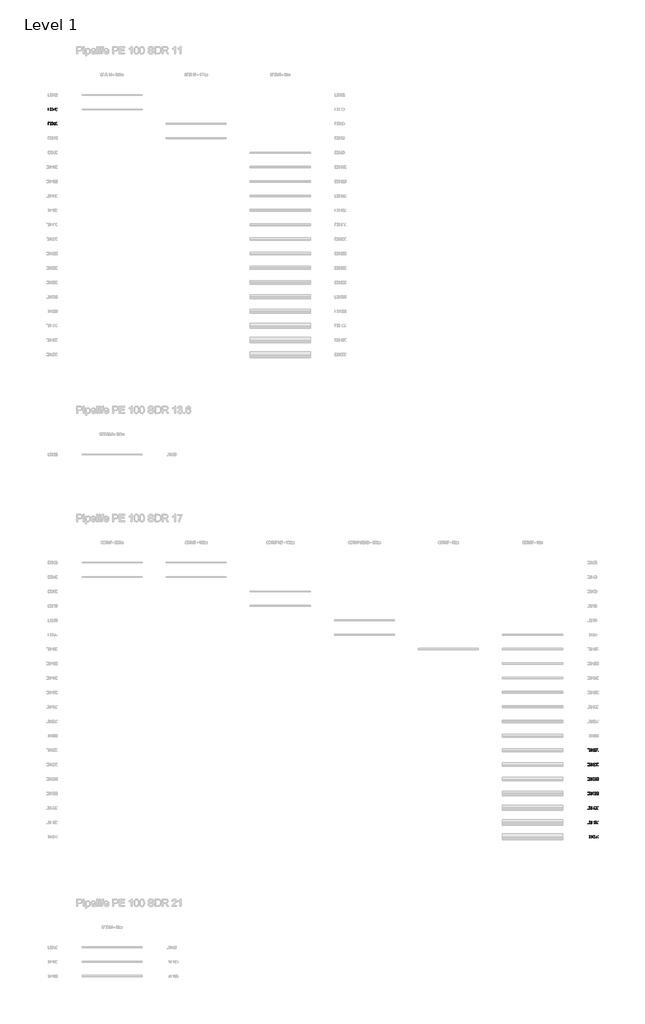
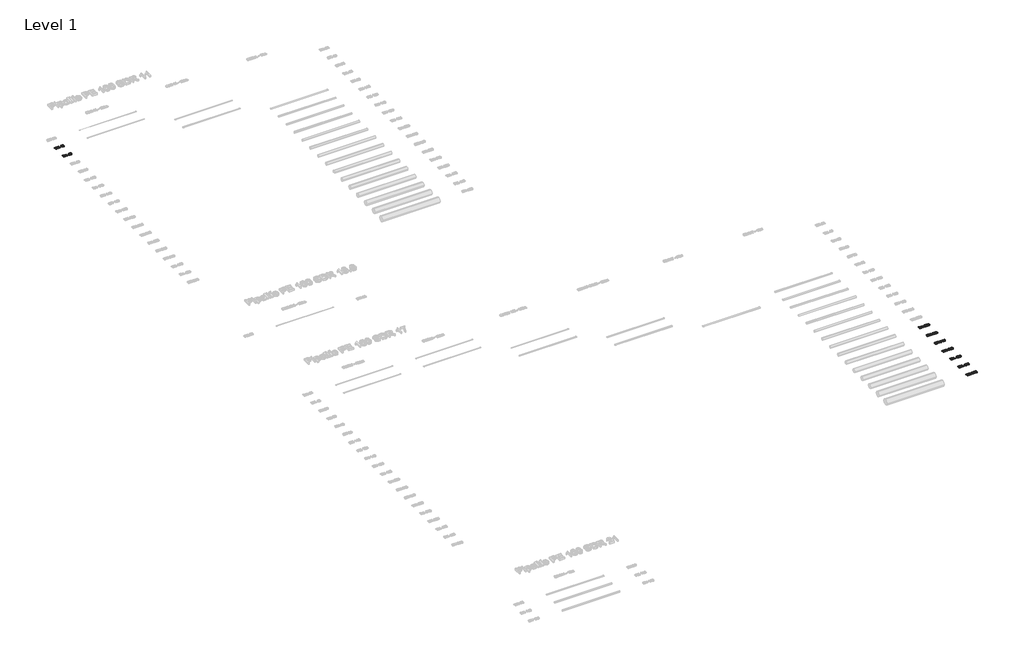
# One storey, part 19 of 26: 9 proxies.
"""IFC4 building model written with IfcOpenShell, lengths in millimetres."""

from ifc_helpers import new_model, si_unit, origin, origin_with_axes, place, context, project, spatial, polyline, outline, extrude, element, save

model = new_model("IFC4")

# Units and contexts
model_context = context("Model", 3, world=origin())
ifc_project = project(units=[si_unit("LENGTHUNIT", "METRE", prefix="MILLI")], contexts=[model_context])

# Site, building, storey
site = spatial("IfcSite", under=ifc_project)
building = spatial("IfcBuilding", under=site)
storey = spatial("IfcBuildingStorey", under=building, Name="Level 1", Elevation=0.0)

# Proxies
placement = place(None, origin())
element("IfcBuildingElementProxy", 1, Name="200mm Arial", ObjectType="200mm Arial", at=placement, inside=storey, context=model_context, shape_type="SweptSolid", body=[
    extrude(outline(polyline([(-19337.4878779, -713.949573), (-19337.4878779, -513.0369527), (-19268.17891, -513.0369527), (-19232.3226782, -515.9309577), (-19216.3075487, -521.5105013), (-19202.7940167, -530.302881), (-19188.90034, -545.606772), (-19179.0043144, -564.6385338), (-19173.0814143, -587.0302846), (-19171.1071142, -612.4141423), (-19176.4536659, -652.9547382), (-19190.187927, -682.2136195), (-19208.5329759, -700.436041), (-19232.5434074, -710.5160077), (-19264.8434466, -713.949573), (-19337.4878779, -713.949573)]), holes=[polyline([(-19312.3738004, -688.8354954), (-19267.9336553, -688.8354954), (-19235.6090907, -685.2057264), (-19216.9697363, -674.9540815), (-19208.2448016, -664.0831685), (-19201.6903707, -650.0116822), (-19197.5884865, -632.6783089), (-19196.2211917, -612.0217348), (-19198.9005989, -584.6513144), (-19206.9388205, -564.4423301), (-19218.8152776, -550.5609162), (-19233.0093913, -542.1732067), (-19268.6203684, -538.1510302), (-19312.3738004, -538.1510302), (-19312.3738004, -688.8354954)])]), origin_with_axes(), (0.0, 0.0, 1.0), 50.0),
    extrude(outline(polyline([(-19136.5752576, -713.949573), (-19136.5752576, -513.0369527), (-19109.6953465, -513.0369527), (-19004.7263505, -672.2072292), (-19004.7263505, -513.0369527), (-18979.612273, -513.0369527), (-18979.612273, -713.949573), (-19006.4921841, -713.949573), (-19111.4611801, -554.7302454), (-19111.4611801, -713.949573), (-19136.5752576, -713.949573)])), origin_with_axes(), (0.0, 0.0, 1.0), 50.0),
    extrude(outline(polyline([(-18784.9781721, -713.949573), (-18784.9781721, -666.8606776), (-18876.0167031, -666.8606776), (-18876.0167031, -641.7466), (-18778.6996527, -516.1762123), (-18759.8640945, -516.1762123), (-18759.8640945, -641.7466), (-18734.750017, -641.7466), (-18734.750017, -666.8606776), (-18759.8640945, -666.8606776), (-18759.8640945, -713.949573), (-18784.9781721, -713.949573)]), holes=[polyline([(-18784.9781721, -641.7466), (-18784.9781721, -564.1480245), (-18845.1146156, -641.7466), (-18784.9781721, -641.7466)])]), origin_with_axes(), (0.0, 0.0, 1.0), 50.0),
    extrude(outline(polyline([(-18712.7751992, -615.1119436), (-18710.9296578, -582.9529258), (-18705.3930338, -557.3054194), (-18696.2205094, -537.7770168), (-18683.4672669, -523.9753106), (-18667.0413358, -515.7715422), (-18646.8507456, -513.0369527), (-18631.3751764, -514.6556334), (-18617.5182879, -519.5116758), (-18605.930005, -527.4150073), (-18597.2602527, -538.1755557), (-18585.4880288, -567.9004209), (-18580.9262921, -615.1119436), (-18582.7534393, -647.0870203), (-18588.2348811, -672.6732131), (-18597.3522232, -692.2200098), (-18610.0870716, -706.0768983), (-18626.5497909, -714.335849), (-18646.8507456, -717.0888326), (-18672.9458418, -712.3063667), (-18692.7624186, -697.9589689), (-18701.5180101, -682.8298218), (-18707.772004, -663.9789353), (-18712.7751992, -615.1119436)]), holes=[polyline([(-18687.6611216, -615.0628927), (-18684.7180657, -654.5672876), (-18675.8888978, -677.4311536), (-18662.7432478, -688.3388547), (-18646.8507456, -691.9747551), (-18630.9582434, -688.326592), (-18617.8125935, -677.3821026), (-18608.9834256, -654.5059739), (-18606.0403696, -615.0628927), (-18608.8853237, -576.4475459), (-18617.420186, -553.4058703), (-18630.5413105, -541.9647402), (-18647.1450512, -538.1510302), (-18662.8658751, -541.5110191), (-18675.4964903, -551.5909857), (-18684.6199638, -576.0674012), (-18687.6611216, -615.0628927)])]), origin_with_axes(), (0.0, 0.0, 1.0), 50.0),
])
element("IfcBuildingElementProxy", 2, Name="200mm Arial", ObjectType="200mm Arial", at=placement, inside=storey, context=model_context, shape_type="SweptSolid", body=[
    extrude(outline(polyline([(-19337.4878779, -1913.949573), (-19337.4878779, -1713.0369527), (-19268.17891, -1713.0369527), (-19232.3226782, -1715.9309577), (-19216.3075487, -1721.5105013), (-19202.7940167, -1730.302881), (-19188.90034, -1745.606772), (-19179.0043144, -1764.6385338), (-19173.0814143, -1787.0302846), (-19171.1071142, -1812.4141423), (-19176.4536659, -1852.9547382), (-19190.187927, -1882.2136195), (-19208.5329759, -1900.436041), (-19232.5434074, -1910.5160077), (-19264.8434466, -1913.949573), (-19337.4878779, -1913.949573)]), holes=[polyline([(-19312.3738004, -1888.8354954), (-19267.9336553, -1888.8354954), (-19235.6090907, -1885.2057264), (-19216.9697363, -1874.9540815), (-19208.2448016, -1864.0831685), (-19201.6903707, -1850.0116822), (-19197.5884865, -1832.6783089), (-19196.2211917, -1812.0217348), (-19198.9005989, -1784.6513144), (-19206.9388205, -1764.4423301), (-19218.8152776, -1750.5609162), (-19233.0093913, -1742.1732067), (-19268.6203684, -1738.1510302), (-19312.3738004, -1738.1510302), (-19312.3738004, -1888.8354954)])]), origin_with_axes(), (0.0, 0.0, 1.0), 50.0),
    extrude(outline(polyline([(-19136.5752576, -1913.949573), (-19136.5752576, -1713.0369527), (-19109.6953465, -1713.0369527), (-19004.7263505, -1872.2072292), (-19004.7263505, -1713.0369527), (-18979.612273, -1713.0369527), (-18979.612273, -1913.949573), (-19006.4921841, -1913.949573), (-19111.4611801, -1754.7302454), (-19111.4611801, -1913.949573), (-19136.5752576, -1913.949573)])), origin_with_axes(), (0.0, 0.0, 1.0), 50.0),
    extrude(outline(polyline([(-18866.5989241, -1860.5821582), (-18841.4848465, -1857.4428985), (-18836.8740589, -1872.5199289), (-18828.8297059, -1883.3172655), (-18817.3885758, -1889.8103827), (-18802.5874569, -1891.9747551), (-18784.5857646, -1888.9642541), (-18771.0967581, -1879.9327511), (-18762.6722604, -1865.9225785), (-18759.8640945, -1847.9760685), (-18762.4944508, -1831.0780222), (-18770.3855196, -1818.1531014), (-18783.5986146, -1809.9493329), (-18802.1950494, -1807.2147434), (-18824.2434437, -1811.5802764), (-18838.3455868, -1822.9110419), (-18863.4596644, -1819.7717822), (-18841.4848465, -1716.1762123), (-18744.1677961, -1716.1762123), (-18744.1677961, -1741.2902899), (-18821.1777604, -1741.2902899), (-18831.9199147, -1796.619742), (-18813.979536, -1785.7304349), (-18795.1807661, -1782.1006659), (-18771.7160261, -1786.601089), (-18752.2366745, -1800.1023582), (-18739.1216814, -1820.6792244), (-18734.750017, -1846.4064386), (-18738.6863543, -1871.5205162), (-18750.4953664, -1893.0048247), (-18760.9309523, -1903.5415782), (-18773.1078464, -1911.0678307), (-18787.0260485, -1915.5835821), (-18802.6855588, -1917.0888326), (-18827.3520466, -1913.2199403), (-18847.0030765, -1901.6132634), (-18860.4736888, -1883.6177025), (-18866.5989241, -1860.5821582)])), origin_with_axes(), (0.0, 0.0, 1.0), 50.0),
    extrude(outline(polyline([(-18712.7751992, -1815.1119436), (-18710.9296578, -1782.9529258), (-18705.3930338, -1757.3054194), (-18696.2205094, -1737.7770168), (-18683.4672669, -1723.9753106), (-18667.0413358, -1715.7715422), (-18646.8507456, -1713.0369527), (-18631.3751764, -1714.6556334), (-18617.5182879, -1719.5116758), (-18605.930005, -1727.4150073), (-18597.2602527, -1738.1755557), (-18585.4880288, -1767.9004209), (-18580.9262921, -1815.1119436), (-18582.7534393, -1847.0870203), (-18588.2348811, -1872.6732131), (-18597.3522232, -1892.2200098), (-18610.0870716, -1906.0768983), (-18626.5497909, -1914.335849), (-18646.8507456, -1917.0888326), (-18672.9458418, -1912.3063667), (-18692.7624186, -1897.9589689), (-18701.5180101, -1882.8298218), (-18707.772004, -1863.9789353), (-18712.7751992, -1815.1119436)]), holes=[polyline([(-18687.6611216, -1815.0628927), (-18684.7180657, -1854.5672876), (-18675.8888978, -1877.4311536), (-18662.7432478, -1888.3388547), (-18646.8507456, -1891.9747551), (-18630.9582434, -1888.326592), (-18617.8125935, -1877.3821026), (-18608.9834256, -1854.5059739), (-18606.0403696, -1815.0628927), (-18608.8853237, -1776.4475459), (-18617.420186, -1753.4058703), (-18630.5413105, -1741.9647402), (-18647.1450512, -1738.1510302), (-18662.8658751, -1741.5110191), (-18675.4964903, -1751.5909857), (-18684.6199638, -1776.0674012), (-18687.6611216, -1815.0628927)])]), origin_with_axes(), (0.0, 0.0, 1.0), 50.0),
])
element("IfcBuildingElementProxy", 3, Name="200mm Arial", ObjectType="200mm Arial", at=placement, inside=storey, context=model_context, shape_type="SweptSolid", body=[
    extrude(outline(polyline([(25539.3076926, -54013.949573), (25539.3076926, -53813.0369527), (25608.6166605, -53813.0369527), (25644.4728923, -53815.9309577), (25660.4880218, -53821.5105013), (25674.0015538, -53830.302881), (25687.8952305, -53845.606772), (25697.7912562, -53864.6385338), (25703.7141563, -53887.0302846), (25705.6884563, -53912.4141423), (25700.3419047, -53952.9547382), (25686.6076435, -53982.2136195), (25668.2625947, -54000.436041), (25644.2521631, -54010.5160077), (25611.9521239, -54013.949573), (25539.3076926, -54013.949573)]), holes=[polyline([(25564.4217702, -53988.8354954), (25608.8619152, -53988.8354954), (25641.1864798, -53985.2057264), (25659.8258342, -53974.9540815), (25668.5507689, -53964.0831685), (25675.1051998, -53950.0116822), (25679.207084, -53932.6783089), (25680.5743788, -53912.0217348), (25677.8949716, -53884.6513144), (25669.85675, -53864.4423301), (25657.9802929, -53850.5609162), (25643.7861793, -53842.1732067), (25608.1752021, -53838.1510302), (25564.4217702, -53838.1510302), (25564.4217702, -53988.8354954)])]), origin_with_axes(), (0.0, 0.0, 1.0), 50.0),
    extrude(outline(polyline([(25740.2203129, -54013.949573), (25740.2203129, -53813.0369527), (25767.100224, -53813.0369527), (25872.06922, -53972.2072292), (25872.06922, -53813.0369527), (25897.1832975, -53813.0369527), (25897.1832975, -54013.949573), (25870.3033864, -54013.949573), (25765.3343905, -53854.7302454), (25765.3343905, -54013.949573), (25740.2203129, -54013.949573)])), origin_with_axes(), (0.0, 0.0, 1.0), 50.0),
    extrude(outline(polyline([(26138.9062938, -53988.8354954), (26138.9062938, -54013.949573), (26007.0573868, -54013.949573), (26009.7551881, -53996.6345937), (26025.0100281, -53969.9754118), (26056.451676, -53940.8636832), (26099.8127005, -53899.0232377), (26107.9428926, -53884.6022634), (26110.6529566, -53870.5736967), (26108.0961767, -53857.9982638), (26100.4258371, -53847.5442838), (26088.6352192, -53840.4993436), (26073.7176043, -53838.1510302), (26058.0519627, -53840.4441613), (26045.8812, -53847.3235546), (26038.0269194, -53858.2496499), (26035.310724, -53872.6828868), (26010.1966465, -53869.5436271), (26016.2850935, -53845.2511527), (26029.4491375, -53827.5069778), (26049.0020656, -53816.6544589), (26074.2571645, -53813.0369527), (26099.6962045, -53817.0591291), (26119.2123444, -53829.1256586), (26131.6283617, -53847.1518763), (26135.7670341, -53869.0531178), (26131.3033993, -53892.8673456), (26116.4654921, -53917.4909138), (26080.486633, -53951.9001431), (26051.5956336, -53976.0577275), (26040.2648682, -53988.8354954), (26138.9062938, -53988.8354954)])), origin_with_axes(), (0.0, 0.0, 1.0), 50.0),
    extrude(outline(polyline([(26164.0203714, -53960.5821582), (26189.1344489, -53957.4428985), (26193.7452366, -53972.5199289), (26201.7895895, -53983.3172655), (26213.2307196, -53989.8103827), (26228.0318385, -53991.9747551), (26246.0335308, -53988.9642541), (26259.5225373, -53979.9327511), (26267.947035, -53965.9225785), (26270.7552009, -53947.9760685), (26268.1248446, -53931.0780222), (26260.2337758, -53918.1531014), (26247.0206809, -53909.9493329), (26228.424246, -53907.2147434), (26206.3758518, -53911.5802764), (26192.2737086, -53922.9110419), (26167.1596311, -53919.7717822), (26189.1344489, -53816.1762123), (26286.4514994, -53816.1762123), (26286.4514994, -53841.2902899), (26209.441535, -53841.2902899), (26198.6993808, -53896.619742), (26216.6397594, -53885.7304349), (26235.4385294, -53882.1006659), (26258.9032693, -53886.601089), (26278.3826209, -53900.1023582), (26291.4976141, -53920.6792244), (26295.8692784, -53946.4064386), (26291.9329411, -53971.5205162), (26280.123929, -53993.0048247), (26269.6883431, -54003.5415782), (26257.5114491, -54011.0678307), (26243.5932469, -54015.5835821), (26227.9337367, -54017.0888326), (26203.2672489, -54013.2199403), (26183.616219, -54001.6132634), (26170.1456066, -53983.6177025), (26164.0203714, -53960.5821582)])), origin_with_axes(), (0.0, 0.0, 1.0), 50.0),
    extrude(outline(polyline([(26317.8440963, -53915.1119436), (26319.6896376, -53882.9529258), (26325.2262617, -53857.3054194), (26334.3987861, -53837.7770168), (26347.1520286, -53823.9753106), (26363.5779597, -53815.7715422), (26383.7685498, -53813.0369527), (26399.2441191, -53814.6556334), (26413.1010076, -53819.5116758), (26424.6892904, -53827.4150073), (26433.3590428, -53838.1755557), (26445.1312666, -53867.9004209), (26449.6930034, -53915.1119436), (26447.8658561, -53947.0870203), (26442.3844144, -53972.6732131), (26433.2670723, -53992.2200098), (26420.5322239, -54006.0768983), (26404.0695046, -54014.335849), (26383.7685498, -54017.0888326), (26357.6734536, -54012.3063667), (26337.8568768, -53997.9589689), (26329.1012853, -53982.8298218), (26322.8472914, -53963.9789353), (26317.8440963, -53915.1119436)]), holes=[polyline([(26342.9581738, -53915.0628927), (26345.9012298, -53954.5672876), (26354.7303977, -53977.4311536), (26367.8760476, -53988.3388547), (26383.7685498, -53991.9747551), (26399.661052, -53988.326592), (26412.806702, -53977.3821026), (26421.6358699, -53954.5059739), (26424.5789258, -53915.0628927), (26421.7339717, -53876.4475459), (26413.1991094, -53853.4058703), (26400.0779849, -53841.9647402), (26383.4742442, -53838.1510302), (26367.7534203, -53841.5110191), (26355.1228051, -53851.5909857), (26345.9993317, -53876.0674012), (26342.9581738, -53915.0628927)])]), origin_with_axes(), (0.0, 0.0, 1.0), 50.0),
])
element("IfcBuildingElementProxy", 4, Name="200mm Arial", ObjectType="200mm Arial", at=placement, inside=storey, context=model_context, shape_type="SweptSolid", body=[
    extrude(outline(polyline([(25539.3076926, -56413.949573), (25539.3076926, -56213.0369527), (25608.6166605, -56213.0369527), (25644.4728923, -56215.9309577), (25660.4880218, -56221.5105013), (25674.0015538, -56230.302881), (25687.8952305, -56245.606772), (25697.7912562, -56264.6385338), (25703.7141563, -56287.0302846), (25705.6884563, -56312.4141423), (25700.3419047, -56352.9547382), (25686.6076435, -56382.2136195), (25668.2625947, -56400.436041), (25644.2521631, -56410.5160077), (25611.9521239, -56413.949573), (25539.3076926, -56413.949573)]), holes=[polyline([(25564.4217702, -56388.8354954), (25608.8619152, -56388.8354954), (25641.1864798, -56385.2057264), (25659.8258342, -56374.9540815), (25668.5507689, -56364.0831685), (25675.1051998, -56350.0116822), (25679.207084, -56332.6783089), (25680.5743788, -56312.0217348), (25677.8949716, -56284.6513144), (25669.85675, -56264.4423301), (25657.9802929, -56250.5609162), (25643.7861793, -56242.1732067), (25608.1752021, -56238.1510302), (25564.4217702, -56238.1510302), (25564.4217702, -56388.8354954)])]), origin_with_axes(), (0.0, 0.0, 1.0), 50.0),
    extrude(outline(polyline([(25740.2203129, -56413.949573), (25740.2203129, -56213.0369527), (25767.100224, -56213.0369527), (25872.06922, -56372.2072292), (25872.06922, -56213.0369527), (25897.1832975, -56213.0369527), (25897.1832975, -56413.949573), (25870.3033864, -56413.949573), (25765.3343905, -56254.7302454), (25765.3343905, -56413.949573), (25740.2203129, -56413.949573)])), origin_with_axes(), (0.0, 0.0, 1.0), 50.0),
    extrude(outline(polyline([(26010.1966465, -56360.5821582), (26035.310724, -56357.4428985), (26040.9331872, -56373.2250361), (26049.1676125, -56383.8813512), (26060.4186702, -56389.9514041), (26075.0910304, -56391.9747551), (26092.3079078, -56389.1911147), (26105.6007105, -56380.8401934), (26114.0987846, -56368.3812565), (26116.931476, -56353.2735692), (26114.1233101, -56338.9323028), (26105.6988124, -56327.3011004), (26092.9455699, -56319.5939726), (26077.1511696, -56317.02493), (26059.5418847, -56319.7717822), (26062.3377879, -56294.6577047), (26066.3599644, -56294.9520102), (26081.406338, -56293.1493885), (26094.8585563, -56287.7415231), (26104.3499118, -56278.5935242), (26107.5136969, -56265.5705016), (26105.2205658, -56254.7241141), (26098.3411725, -56245.925603), (26087.8442729, -56240.0946734), (26074.6986229, -56238.1510302), (26061.5284475, -56240.1130675), (26050.7617678, -56245.9991794), (26042.9013558, -56255.809366), (26038.4499837, -56269.5436271), (26013.3359061, -56266.4043674), (26020.7303343, -56243.8532011), (26033.8882469, -56227.0164685), (26051.8899392, -56216.5318316), (26073.8157062, -56213.0369527), (26089.6039751, -56214.7598667), (26104.1046571, -56219.9286087), (26116.3306021, -56228.0833263), (26125.29466, -56238.7641669), (26130.7944958, -56251.0698196), (26132.6277745, -56264.0989736), (26130.8864663, -56276.2390794), (26125.662542, -56287.2510138), (26117.0295779, -56296.6320047), (26105.0611503, -56303.87928), (26120.7819742, -56310.2313758), (26132.4315707, -56321.0471064), (26139.6420578, -56335.7378608), (26142.0455535, -56353.7150276), (26137.2385621, -56378.191443), (26122.8175879, -56398.645682), (26101.0512365, -56412.478045), (26074.2081136, -56417.0888326), (26049.9279019, -56413.1524953), (26030.1603761, -56401.3434833), (26016.4138522, -56383.2804773), (26010.1966465, -56360.5821582)])), origin_with_axes(), (0.0, 0.0, 1.0), 50.0),
    extrude(outline(polyline([(26258.1981621, -56413.949573), (26233.0840846, -56413.949573), (26233.0840846, -56257.3789958), (26209.2943822, -56274.3260931), (26182.8559295, -56287.0057592), (26182.8559295, -56263.2651077), (26219.6686545, -56239.769711), (26233.1392669, -56226.1948653), (26242.0113543, -56213.0369527), (26258.1981621, -56213.0369527), (26258.1981621, -56413.949573)])), origin_with_axes(), (0.0, 0.0, 1.0), 50.0),
    extrude(outline(polyline([(26317.8440963, -56360.5821582), (26342.9581738, -56357.4428985), (26347.5689615, -56372.5199289), (26355.6133145, -56383.3172655), (26367.0544445, -56389.8103827), (26381.8555634, -56391.9747551), (26399.8572557, -56388.9642541), (26413.3462622, -56379.9327511), (26421.7707599, -56365.9225785), (26424.5789258, -56347.9760685), (26421.9485696, -56331.0780222), (26414.0575008, -56318.1531014), (26400.8444058, -56309.9493329), (26382.2479709, -56307.2147434), (26360.1995767, -56311.5802764), (26346.0974335, -56322.9110419), (26320.983356, -56319.7717822), (26342.9581738, -56216.1762123), (26440.2752243, -56216.1762123), (26440.2752243, -56241.2902899), (26363.26526, -56241.2902899), (26352.5231057, -56296.619742), (26370.4634843, -56285.7304349), (26389.2622543, -56282.1006659), (26412.7269942, -56286.601089), (26432.2063459, -56300.1023582), (26445.321339, -56320.6792244), (26449.6930034, -56346.4064386), (26445.756666, -56371.5205162), (26433.947654, -56393.0048247), (26423.512068, -56403.5415782), (26411.335174, -56411.0678307), (26397.4169718, -56415.5835821), (26381.7574616, -56417.0888326), (26357.0909738, -56413.2199403), (26337.4399439, -56401.6132634), (26323.9693315, -56383.6177025), (26317.8440963, -56360.5821582)])), origin_with_axes(), (0.0, 0.0, 1.0), 50.0),
])
element("IfcBuildingElementProxy", 5, Name="200mm Arial", ObjectType="200mm Arial", at=placement, inside=storey, context=model_context, shape_type="SweptSolid", body=[
    extrude(outline(polyline([(25539.3076926, -58813.949573), (25539.3076926, -58613.0369527), (25608.6166605, -58613.0369527), (25644.4728923, -58615.9309577), (25660.4880218, -58621.5105013), (25674.0015538, -58630.302881), (25687.8952305, -58645.606772), (25697.7912562, -58664.6385338), (25703.7141563, -58687.0302846), (25705.6884563, -58712.4141423), (25700.3419047, -58752.9547382), (25686.6076435, -58782.2136195), (25668.2625947, -58800.436041), (25644.2521631, -58810.5160077), (25611.9521239, -58813.949573), (25539.3076926, -58813.949573)]), holes=[polyline([(25564.4217702, -58788.8354954), (25608.8619152, -58788.8354954), (25641.1864798, -58785.2057264), (25659.8258342, -58774.9540815), (25668.5507689, -58764.0831685), (25675.1051998, -58750.0116822), (25679.207084, -58732.6783089), (25680.5743788, -58712.0217348), (25677.8949716, -58684.6513144), (25669.85675, -58664.4423301), (25657.9802929, -58650.5609162), (25643.7861793, -58642.1732067), (25608.1752021, -58638.1510302), (25564.4217702, -58638.1510302), (25564.4217702, -58788.8354954)])]), origin_with_axes(), (0.0, 0.0, 1.0), 50.0),
    extrude(outline(polyline([(25740.2203129, -58813.949573), (25740.2203129, -58613.0369527), (25767.100224, -58613.0369527), (25872.06922, -58772.2072292), (25872.06922, -58613.0369527), (25897.1832975, -58613.0369527), (25897.1832975, -58813.949573), (25870.3033864, -58813.949573), (25765.3343905, -58654.7302454), (25765.3343905, -58813.949573), (25740.2203129, -58813.949573)])), origin_with_axes(), (0.0, 0.0, 1.0), 50.0),
    extrude(outline(polyline([(26091.8173985, -58813.949573), (26091.8173985, -58766.8606776), (26000.7788674, -58766.8606776), (26000.7788674, -58741.7466), (26098.0959178, -58616.1762123), (26116.931476, -58616.1762123), (26116.931476, -58741.7466), (26142.0455535, -58741.7466), (26142.0455535, -58766.8606776), (26116.931476, -58766.8606776), (26116.931476, -58813.949573), (26091.8173985, -58813.949573)]), holes=[polyline([(26091.8173985, -58741.7466), (26091.8173985, -58664.1480245), (26031.680955, -58741.7466), (26091.8173985, -58741.7466)])]), origin_with_axes(), (0.0, 0.0, 1.0), 50.0),
    extrude(outline(polyline([(26164.0203714, -58715.1119436), (26165.8659127, -58682.9529258), (26171.4025367, -58657.3054194), (26180.5750612, -58637.7770168), (26193.3283037, -58623.9753106), (26209.7542347, -58615.7715422), (26229.9448249, -58613.0369527), (26245.4203942, -58614.6556334), (26259.2772827, -58619.5116758), (26270.8655655, -58627.4150073), (26279.5353179, -58638.1755557), (26291.3075417, -58667.9004209), (26295.8692784, -58715.1119436), (26294.0421312, -58747.0870203), (26288.5606895, -58772.6732131), (26279.4433474, -58792.2200098), (26266.708499, -58806.0768983), (26250.2457797, -58814.335849), (26229.9448249, -58817.0888326), (26203.8497287, -58812.3063667), (26184.0331519, -58797.9589689), (26175.2775604, -58782.8298218), (26169.0235665, -58763.9789353), (26164.0203714, -58715.1119436)]), holes=[polyline([(26189.1344489, -58715.0628927), (26192.0775049, -58754.5672876), (26200.9066728, -58777.4311536), (26214.0523227, -58788.3388547), (26229.9448249, -58791.9747551), (26245.8373271, -58788.326592), (26258.9829771, -58777.3821026), (26267.8121449, -58754.5059739), (26270.7552009, -58715.0628927), (26267.9102468, -58676.4475459), (26259.3753845, -58653.4058703), (26246.25426, -58641.9647402), (26229.6505193, -58638.1510302), (26213.9296954, -58641.5110191), (26201.2990802, -58651.5909857), (26192.1756067, -58676.0674012), (26189.1344489, -58715.0628927)])]), origin_with_axes(), (0.0, 0.0, 1.0), 50.0),
    extrude(outline(polyline([(26317.8440963, -58715.1119436), (26319.6896376, -58682.9529258), (26325.2262617, -58657.3054194), (26334.3987861, -58637.7770168), (26347.1520286, -58623.9753106), (26363.5779597, -58615.7715422), (26383.7685498, -58613.0369527), (26399.2441191, -58614.6556334), (26413.1010076, -58619.5116758), (26424.6892904, -58627.4150073), (26433.3590428, -58638.1755557), (26445.1312666, -58667.9004209), (26449.6930034, -58715.1119436), (26447.8658561, -58747.0870203), (26442.3844144, -58772.6732131), (26433.2670723, -58792.2200098), (26420.5322239, -58806.0768983), (26404.0695046, -58814.335849), (26383.7685498, -58817.0888326), (26357.6734536, -58812.3063667), (26337.8568768, -58797.9589689), (26329.1012853, -58782.8298218), (26322.8472914, -58763.9789353), (26317.8440963, -58715.1119436)]), holes=[polyline([(26342.9581738, -58715.0628927), (26345.9012298, -58754.5672876), (26354.7303977, -58777.4311536), (26367.8760476, -58788.3388547), (26383.7685498, -58791.9747551), (26399.661052, -58788.326592), (26412.806702, -58777.3821026), (26421.6358699, -58754.5059739), (26424.5789258, -58715.0628927), (26421.7339717, -58676.4475459), (26413.1991094, -58653.4058703), (26400.0779849, -58641.9647402), (26383.4742442, -58638.1510302), (26367.7534203, -58641.5110191), (26355.1228051, -58651.5909857), (26345.9993317, -58676.0674012), (26342.9581738, -58715.0628927)])]), origin_with_axes(), (0.0, 0.0, 1.0), 50.0),
])
element("IfcBuildingElementProxy", 6, Name="200mm Arial", ObjectType="200mm Arial", at=placement, inside=storey, context=model_context, shape_type="SweptSolid", body=[
    extrude(outline(polyline([(25539.3076926, -55213.949573), (25539.3076926, -55013.0369527), (25608.6166605, -55013.0369527), (25644.4728923, -55015.9309577), (25660.4880218, -55021.5105013), (25674.0015538, -55030.302881), (25687.8952305, -55045.606772), (25697.7912562, -55064.6385338), (25703.7141563, -55087.0302846), (25705.6884563, -55112.4141423), (25700.3419047, -55152.9547382), (25686.6076435, -55182.2136195), (25668.2625947, -55200.436041), (25644.2521631, -55210.5160077), (25611.9521239, -55213.949573), (25539.3076926, -55213.949573)]), holes=[polyline([(25564.4217702, -55188.8354954), (25608.8619152, -55188.8354954), (25641.1864798, -55185.2057264), (25659.8258342, -55174.9540815), (25668.5507689, -55164.0831685), (25675.1051998, -55150.0116822), (25679.207084, -55132.6783089), (25680.5743788, -55112.0217348), (25677.8949716, -55084.6513144), (25669.85675, -55064.4423301), (25657.9802929, -55050.5609162), (25643.7861793, -55042.1732067), (25608.1752021, -55038.1510302), (25564.4217702, -55038.1510302), (25564.4217702, -55188.8354954)])]), origin_with_axes(), (0.0, 0.0, 1.0), 50.0),
    extrude(outline(polyline([(25740.2203129, -55213.949573), (25740.2203129, -55013.0369527), (25767.100224, -55013.0369527), (25872.06922, -55172.2072292), (25872.06922, -55013.0369527), (25897.1832975, -55013.0369527), (25897.1832975, -55213.949573), (25870.3033864, -55213.949573), (25765.3343905, -55054.7302454), (25765.3343905, -55213.949573), (25740.2203129, -55213.949573)])), origin_with_axes(), (0.0, 0.0, 1.0), 50.0),
    extrude(outline(polyline([(26138.9062938, -55188.8354954), (26138.9062938, -55213.949573), (26007.0573868, -55213.949573), (26009.7551881, -55196.6345937), (26025.0100281, -55169.9754118), (26056.451676, -55140.8636832), (26099.8127005, -55099.0232377), (26107.9428926, -55084.6022634), (26110.6529566, -55070.5736967), (26108.0961767, -55057.9982638), (26100.4258371, -55047.5442838), (26088.6352192, -55040.4993436), (26073.7176043, -55038.1510302), (26058.0519627, -55040.4441613), (26045.8812, -55047.3235546), (26038.0269194, -55058.2496499), (26035.310724, -55072.6828868), (26010.1966465, -55069.5436271), (26016.2850935, -55045.2511527), (26029.4491375, -55027.5069778), (26049.0020656, -55016.6544589), (26074.2571645, -55013.0369527), (26099.6962045, -55017.0591291), (26119.2123444, -55029.1256586), (26131.6283617, -55047.1518763), (26135.7670341, -55069.0531178), (26131.3033993, -55092.8673456), (26116.4654921, -55117.4909138), (26080.486633, -55151.9001431), (26051.5956336, -55176.0577275), (26040.2648682, -55188.8354954), (26138.9062938, -55188.8354954)])), origin_with_axes(), (0.0, 0.0, 1.0), 50.0),
    extrude(outline(polyline([(26200.6123672, -55103.2906688), (26187.1662802, -55096.6687929), (26177.7301071, -55087.6924722), (26172.1566948, -55076.5456478), (26170.2988908, -55063.4122605), (26174.3455927, -55043.7796247), (26186.4856985, -55027.5560287), (26205.3580449, -55016.6667217), (26229.6014684, -55013.0369527), (26253.9920447, -55016.7525608), (26273.1096457, -55027.8993853), (26285.4704807, -55044.3804986), (26289.5907591, -55064.0989736), (26287.7574804, -55076.8092965), (26282.2576446, -55087.7660486), (26273.0299379, -55096.687187), (26260.0130466, -55103.2906688), (26275.4702218, -55111.255314), (26286.7212795, -55122.9846183), (26293.5822787, -55137.9144959), (26295.8692784, -55155.4808612), (26291.3320672, -55179.4912927), (26277.7204333, -55199.332395), (26256.7021087, -55212.6497232), (26229.9448249, -55217.0888326), (26203.1875411, -55212.6313291), (26182.1692165, -55199.2588186), (26168.5575826, -55179.227644), (26164.0203714, -55154.7941481), (26166.3993416, -55136.5472012), (26173.5362523, -55121.5376158), (26185.0632215, -55110.2804267), (26200.6123672, -55103.2906688)]), holes=[polyline([(26189.1344489, -55153.9112313), (26193.3283037, -55172.8203659), (26199.1347078, -55180.9321639), (26208.1662108, -55186.97156), (26230.1410286, -55191.9747551), (26247.2352787, -55189.3443988), (26260.0620976, -55181.45333), (26268.0819251, -55169.5032966), (26270.7552009, -55154.6960463), (26267.9960859, -55139.6374099), (26259.7187411, -55127.4237277), (26246.5976166, -55119.3303238), (26229.3071628, -55116.6325225), (26212.452036, -55119.2935356), (26199.7539758, -55127.2765749), (26191.7893306, -55139.2572652), (26189.1344489, -55153.9112313)]), polyline([(26195.4129683, -55064.1480245), (26197.6386544, -55075.110908), (26204.3157126, -55083.8664995), (26215.2479392, -55089.6054586), (26230.2391305, -55091.518445), (26244.8808339, -55089.6177213), (26255.6475136, -55083.9155504), (26262.2693896, -55075.4542645), (26264.4766815, -55065.276196), (26262.1958132, -55054.7118513), (26255.353208, -55045.974654), (26244.4393755, -55040.1069361), (26229.9448249, -55038.1510302), (26215.3583038, -55040.0640166), (26204.4628654, -55045.8029757), (26197.6754426, -55054.2152106), (26195.4129683, -55064.1480245)])]), origin_with_axes(), (0.0, 0.0, 1.0), 50.0),
    extrude(outline(polyline([(26317.8440963, -55115.1119436), (26319.6896376, -55082.9529258), (26325.2262617, -55057.3054194), (26334.3987861, -55037.7770168), (26347.1520286, -55023.9753106), (26363.5779597, -55015.7715422), (26383.7685498, -55013.0369527), (26399.2441191, -55014.6556334), (26413.1010076, -55019.5116758), (26424.6892904, -55027.4150073), (26433.3590428, -55038.1755557), (26445.1312666, -55067.9004209), (26449.6930034, -55115.1119436), (26447.8658561, -55147.0870203), (26442.3844144, -55172.6732131), (26433.2670723, -55192.2200098), (26420.5322239, -55206.0768983), (26404.0695046, -55214.335849), (26383.7685498, -55217.0888326), (26357.6734536, -55212.3063667), (26337.8568768, -55197.9589689), (26329.1012853, -55182.8298218), (26322.8472914, -55163.9789353), (26317.8440963, -55115.1119436)]), holes=[polyline([(26342.9581738, -55115.0628927), (26345.9012298, -55154.5672876), (26354.7303977, -55177.4311536), (26367.8760476, -55188.3388547), (26383.7685498, -55191.9747551), (26399.661052, -55188.326592), (26412.806702, -55177.3821026), (26421.6358699, -55154.5059739), (26424.5789258, -55115.0628927), (26421.7339717, -55076.4475459), (26413.1991094, -55053.4058703), (26400.0779849, -55041.9647402), (26383.4742442, -55038.1510302), (26367.7534203, -55041.5110191), (26355.1228051, -55051.5909857), (26345.9993317, -55076.0674012), (26342.9581738, -55115.0628927)])]), origin_with_axes(), (0.0, 0.0, 1.0), 50.0),
])
element("IfcBuildingElementProxy", 7, Name="200mm Arial", ObjectType="200mm Arial", at=placement, inside=storey, context=model_context, shape_type="SweptSolid", body=[
    extrude(outline(polyline([(25539.3076926, -57613.949573), (25539.3076926, -57413.0369527), (25608.6166605, -57413.0369527), (25644.4728923, -57415.9309577), (25660.4880218, -57421.5105013), (25674.0015538, -57430.302881), (25687.8952305, -57445.606772), (25697.7912562, -57464.6385338), (25703.7141563, -57487.0302846), (25705.6884563, -57512.4141423), (25700.3419047, -57552.9547382), (25686.6076435, -57582.2136195), (25668.2625947, -57600.436041), (25644.2521631, -57610.5160077), (25611.9521239, -57613.949573), (25539.3076926, -57613.949573)]), holes=[polyline([(25564.4217702, -57588.8354954), (25608.8619152, -57588.8354954), (25641.1864798, -57585.2057264), (25659.8258342, -57574.9540815), (25668.5507689, -57564.0831685), (25675.1051998, -57550.0116822), (25679.207084, -57532.6783089), (25680.5743788, -57512.0217348), (25677.8949716, -57484.6513144), (25669.85675, -57464.4423301), (25657.9802929, -57450.5609162), (25643.7861793, -57442.1732067), (25608.1752021, -57438.1510302), (25564.4217702, -57438.1510302), (25564.4217702, -57588.8354954)])]), origin_with_axes(), (0.0, 0.0, 1.0), 50.0),
    extrude(outline(polyline([(25740.2203129, -57613.949573), (25740.2203129, -57413.0369527), (25767.100224, -57413.0369527), (25872.06922, -57572.2072292), (25872.06922, -57413.0369527), (25897.1832975, -57413.0369527), (25897.1832975, -57613.949573), (25870.3033864, -57613.949573), (25765.3343905, -57454.7302454), (25765.3343905, -57613.949573), (25740.2203129, -57613.949573)])), origin_with_axes(), (0.0, 0.0, 1.0), 50.0),
    extrude(outline(polyline([(26010.1966465, -57560.5821582), (26035.310724, -57557.4428985), (26040.9331872, -57573.2250361), (26049.1676125, -57583.8813512), (26060.4186702, -57589.9514041), (26075.0910304, -57591.9747551), (26092.3079078, -57589.1911147), (26105.6007105, -57580.8401934), (26114.0987846, -57568.3812565), (26116.931476, -57553.2735692), (26114.1233101, -57538.9323028), (26105.6988124, -57527.3011004), (26092.9455699, -57519.5939726), (26077.1511696, -57517.02493), (26059.5418847, -57519.7717822), (26062.3377879, -57494.6577047), (26066.3599644, -57494.9520102), (26081.406338, -57493.1493885), (26094.8585563, -57487.7415231), (26104.3499118, -57478.5935242), (26107.5136969, -57465.5705016), (26105.2205658, -57454.7241141), (26098.3411725, -57445.925603), (26087.8442729, -57440.0946734), (26074.6986229, -57438.1510302), (26061.5284475, -57440.1130675), (26050.7617678, -57445.9991794), (26042.9013558, -57455.809366), (26038.4499837, -57469.5436271), (26013.3359061, -57466.4043674), (26020.7303343, -57443.8532011), (26033.8882469, -57427.0164685), (26051.8899392, -57416.5318316), (26073.8157062, -57413.0369527), (26089.6039751, -57414.7598667), (26104.1046571, -57419.9286087), (26116.3306021, -57428.0833263), (26125.29466, -57438.7641669), (26130.7944958, -57451.0698196), (26132.6277745, -57464.0989736), (26130.8864663, -57476.2390794), (26125.662542, -57487.2510138), (26117.0295779, -57496.6320047), (26105.0611503, -57503.87928), (26120.7819742, -57510.2313758), (26132.4315707, -57521.0471064), (26139.6420578, -57535.7378608), (26142.0455535, -57553.7150276), (26137.2385621, -57578.191443), (26122.8175879, -57598.645682), (26101.0512365, -57612.478045), (26074.2081136, -57617.0888326), (26049.9279019, -57613.1524953), (26030.1603761, -57601.3434833), (26016.4138522, -57583.2804773), (26010.1966465, -57560.5821582)])), origin_with_axes(), (0.0, 0.0, 1.0), 50.0),
    extrude(outline(polyline([(26164.0203714, -57560.5821582), (26189.1344489, -57557.4428985), (26193.7452366, -57572.5199289), (26201.7895895, -57583.3172655), (26213.2307196, -57589.8103827), (26228.0318385, -57591.9747551), (26246.0335308, -57588.9642541), (26259.5225373, -57579.9327511), (26267.947035, -57565.9225785), (26270.7552009, -57547.9760685), (26268.1248446, -57531.0780222), (26260.2337758, -57518.1531014), (26247.0206809, -57509.9493329), (26228.424246, -57507.2147434), (26206.3758518, -57511.5802764), (26192.2737086, -57522.9110419), (26167.1596311, -57519.7717822), (26189.1344489, -57416.1762123), (26286.4514994, -57416.1762123), (26286.4514994, -57441.2902899), (26209.441535, -57441.2902899), (26198.6993808, -57496.619742), (26216.6397594, -57485.7304349), (26235.4385294, -57482.1006659), (26258.9032693, -57486.601089), (26278.3826209, -57500.1023582), (26291.4976141, -57520.6792244), (26295.8692784, -57546.4064386), (26291.9329411, -57571.5205162), (26280.123929, -57593.0048247), (26269.6883431, -57603.5415782), (26257.5114491, -57611.0678307), (26243.5932469, -57615.5835821), (26227.9337367, -57617.0888326), (26203.2672489, -57613.2199403), (26183.616219, -57601.6132634), (26170.1456066, -57583.6177025), (26164.0203714, -57560.5821582)])), origin_with_axes(), (0.0, 0.0, 1.0), 50.0),
    extrude(outline(polyline([(26317.8440963, -57560.5821582), (26342.9581738, -57557.4428985), (26347.5689615, -57572.5199289), (26355.6133145, -57583.3172655), (26367.0544445, -57589.8103827), (26381.8555634, -57591.9747551), (26399.8572557, -57588.9642541), (26413.3462622, -57579.9327511), (26421.7707599, -57565.9225785), (26424.5789258, -57547.9760685), (26421.9485696, -57531.0780222), (26414.0575008, -57518.1531014), (26400.8444058, -57509.9493329), (26382.2479709, -57507.2147434), (26360.1995767, -57511.5802764), (26346.0974335, -57522.9110419), (26320.983356, -57519.7717822), (26342.9581738, -57416.1762123), (26440.2752243, -57416.1762123), (26440.2752243, -57441.2902899), (26363.26526, -57441.2902899), (26352.5231057, -57496.619742), (26370.4634843, -57485.7304349), (26389.2622543, -57482.1006659), (26412.7269942, -57486.601089), (26432.2063459, -57500.1023582), (26445.321339, -57520.6792244), (26449.6930034, -57546.4064386), (26445.756666, -57571.5205162), (26433.947654, -57593.0048247), (26423.512068, -57603.5415782), (26411.335174, -57611.0678307), (26397.4169718, -57615.5835821), (26381.7574616, -57617.0888326), (26357.0909738, -57613.2199403), (26337.4399439, -57601.6132634), (26323.9693315, -57583.6177025), (26317.8440963, -57560.5821582)])), origin_with_axes(), (0.0, 0.0, 1.0), 50.0),
])
element("IfcBuildingElementProxy", 8, Name="200mm Arial", ObjectType="200mm Arial", at=placement, inside=storey, context=model_context, shape_type="SweptSolid", body=[
    extrude(outline(polyline([(25539.3076926, -61213.949573), (25539.3076926, -61013.0369527), (25608.6166605, -61013.0369527), (25644.4728923, -61015.9309577), (25660.4880218, -61021.5105013), (25674.0015538, -61030.302881), (25687.8952305, -61045.606772), (25697.7912562, -61064.6385338), (25703.7141563, -61087.0302846), (25705.6884563, -61112.4141423), (25700.3419047, -61152.9547382), (25686.6076435, -61182.2136195), (25668.2625947, -61200.436041), (25644.2521631, -61210.5160077), (25611.9521239, -61213.949573), (25539.3076926, -61213.949573)]), holes=[polyline([(25564.4217702, -61188.8354954), (25608.8619152, -61188.8354954), (25641.1864798, -61185.2057264), (25659.8258342, -61174.9540815), (25668.5507689, -61164.0831685), (25675.1051998, -61150.0116822), (25679.207084, -61132.6783089), (25680.5743788, -61112.0217348), (25677.8949716, -61084.6513144), (25669.85675, -61064.4423301), (25657.9802929, -61050.5609162), (25643.7861793, -61042.1732067), (25608.1752021, -61038.1510302), (25564.4217702, -61038.1510302), (25564.4217702, -61188.8354954)])]), origin_with_axes(), (0.0, 0.0, 1.0), 50.0),
    extrude(outline(polyline([(25740.2203129, -61213.949573), (25740.2203129, -61013.0369527), (25767.100224, -61013.0369527), (25872.06922, -61172.2072292), (25872.06922, -61013.0369527), (25897.1832975, -61013.0369527), (25897.1832975, -61213.949573), (25870.3033864, -61213.949573), (25765.3343905, -61054.7302454), (25765.3343905, -61213.949573), (25740.2203129, -61213.949573)])), origin_with_axes(), (0.0, 0.0, 1.0), 50.0),
    extrude(outline(polyline([(26010.1966465, -61160.5821582), (26035.310724, -61157.4428985), (26039.9215117, -61172.5199289), (26047.9658646, -61183.3172655), (26059.4069947, -61189.8103827), (26074.2081136, -61191.9747551), (26092.2098059, -61188.9642541), (26105.6988124, -61179.9327511), (26114.1233101, -61165.9225785), (26116.931476, -61147.9760685), (26114.3011197, -61131.0780222), (26106.4100509, -61118.1531014), (26093.1969559, -61109.9493329), (26074.6005211, -61107.2147434), (26052.5521268, -61111.5802764), (26038.4499837, -61122.9110419), (26013.3359061, -61119.7717822), (26035.310724, -61016.1762123), (26132.6277745, -61016.1762123), (26132.6277745, -61041.2902899), (26055.6178101, -61041.2902899), (26044.8756559, -61096.619742), (26062.8160345, -61085.7304349), (26081.6148045, -61082.1006659), (26105.0795444, -61086.601089), (26124.558896, -61100.1023582), (26137.6738892, -61120.6792244), (26142.0455535, -61146.4064386), (26138.1092162, -61171.5205162), (26126.3002041, -61193.0048247), (26115.8646182, -61203.5415782), (26103.6877242, -61211.0678307), (26089.769522, -61215.5835821), (26074.1100118, -61217.0888326), (26049.443524, -61213.2199403), (26029.7924941, -61201.6132634), (26016.3218817, -61183.6177025), (26010.1966465, -61160.5821582)])), origin_with_axes(), (0.0, 0.0, 1.0), 50.0),
    extrude(outline(polyline([(26164.0203714, -61115.1119436), (26165.8659127, -61082.9529258), (26171.4025367, -61057.3054194), (26180.5750612, -61037.7770168), (26193.3283037, -61023.9753106), (26209.7542347, -61015.7715422), (26229.9448249, -61013.0369527), (26245.4203942, -61014.6556334), (26259.2772827, -61019.5116758), (26270.8655655, -61027.4150073), (26279.5353179, -61038.1755557), (26291.3075417, -61067.9004209), (26295.8692784, -61115.1119436), (26294.0421312, -61147.0870203), (26288.5606895, -61172.6732131), (26279.4433474, -61192.2200098), (26266.708499, -61206.0768983), (26250.2457797, -61214.335849), (26229.9448249, -61217.0888326), (26203.8497287, -61212.3063667), (26184.0331519, -61197.9589689), (26175.2775604, -61182.8298218), (26169.0235665, -61163.9789353), (26164.0203714, -61115.1119436)]), holes=[polyline([(26189.1344489, -61115.0628927), (26192.0775049, -61154.5672876), (26200.9066728, -61177.4311536), (26214.0523227, -61188.3388547), (26229.9448249, -61191.9747551), (26245.8373271, -61188.326592), (26258.9829771, -61177.3821026), (26267.8121449, -61154.5059739), (26270.7552009, -61115.0628927), (26267.9102468, -61076.4475459), (26259.3753845, -61053.4058703), (26246.25426, -61041.9647402), (26229.6505193, -61038.1510302), (26213.9296954, -61041.5110191), (26201.2990802, -61051.5909857), (26192.1756067, -61076.0674012), (26189.1344489, -61115.0628927)])]), origin_with_axes(), (0.0, 0.0, 1.0), 50.0),
    extrude(outline(polyline([(26317.8440963, -61115.1119436), (26319.6896376, -61082.9529258), (26325.2262617, -61057.3054194), (26334.3987861, -61037.7770168), (26347.1520286, -61023.9753106), (26363.5779597, -61015.7715422), (26383.7685498, -61013.0369527), (26399.2441191, -61014.6556334), (26413.1010076, -61019.5116758), (26424.6892904, -61027.4150073), (26433.3590428, -61038.1755557), (26445.1312666, -61067.9004209), (26449.6930034, -61115.1119436), (26447.8658561, -61147.0870203), (26442.3844144, -61172.6732131), (26433.2670723, -61192.2200098), (26420.5322239, -61206.0768983), (26404.0695046, -61214.335849), (26383.7685498, -61217.0888326), (26357.6734536, -61212.3063667), (26337.8568768, -61197.9589689), (26329.1012853, -61182.8298218), (26322.8472914, -61163.9789353), (26317.8440963, -61115.1119436)]), holes=[polyline([(26342.9581738, -61115.0628927), (26345.9012298, -61154.5672876), (26354.7303977, -61177.4311536), (26367.8760476, -61188.3388547), (26383.7685498, -61191.9747551), (26399.661052, -61188.326592), (26412.806702, -61177.3821026), (26421.6358699, -61154.5059739), (26424.5789258, -61115.0628927), (26421.7339717, -61076.4475459), (26413.1991094, -61053.4058703), (26400.0779849, -61041.9647402), (26383.4742442, -61038.1510302), (26367.7534203, -61041.5110191), (26355.1228051, -61051.5909857), (26345.9993317, -61076.0674012), (26342.9581738, -61115.0628927)])]), origin_with_axes(), (0.0, 0.0, 1.0), 50.0),
])
element("IfcBuildingElementProxy", 9, Name="200mm Arial", ObjectType="200mm Arial", at=placement, inside=storey, context=model_context, shape_type="SweptSolid", body=[
    extrude(outline(polyline([(25539.3076926, -60013.949573), (25539.3076926, -59813.0369527), (25608.6166605, -59813.0369527), (25644.4728923, -59815.9309577), (25660.4880218, -59821.5105013), (25674.0015538, -59830.302881), (25687.8952305, -59845.606772), (25697.7912562, -59864.6385338), (25703.7141563, -59887.0302846), (25705.6884563, -59912.4141423), (25700.3419047, -59952.9547382), (25686.6076435, -59982.2136195), (25668.2625947, -60000.436041), (25644.2521631, -60010.5160077), (25611.9521239, -60013.949573), (25539.3076926, -60013.949573)]), holes=[polyline([(25564.4217702, -59988.8354954), (25608.8619152, -59988.8354954), (25641.1864798, -59985.2057264), (25659.8258342, -59974.9540815), (25668.5507689, -59964.0831685), (25675.1051998, -59950.0116822), (25679.207084, -59932.6783089), (25680.5743788, -59912.0217348), (25677.8949716, -59884.6513144), (25669.85675, -59864.4423301), (25657.9802929, -59850.5609162), (25643.7861793, -59842.1732067), (25608.1752021, -59838.1510302), (25564.4217702, -59838.1510302), (25564.4217702, -59988.8354954)])]), origin_with_axes(), (0.0, 0.0, 1.0), 50.0),
    extrude(outline(polyline([(25740.2203129, -60013.949573), (25740.2203129, -59813.0369527), (25767.100224, -59813.0369527), (25872.06922, -59972.2072292), (25872.06922, -59813.0369527), (25897.1832975, -59813.0369527), (25897.1832975, -60013.949573), (25870.3033864, -60013.949573), (25765.3343905, -59854.7302454), (25765.3343905, -60013.949573), (25740.2203129, -60013.949573)])), origin_with_axes(), (0.0, 0.0, 1.0), 50.0),
    extrude(outline(polyline([(26091.8173985, -60013.949573), (26091.8173985, -59966.8606776), (26000.7788674, -59966.8606776), (26000.7788674, -59941.7466), (26098.0959178, -59816.1762123), (26116.931476, -59816.1762123), (26116.931476, -59941.7466), (26142.0455535, -59941.7466), (26142.0455535, -59966.8606776), (26116.931476, -59966.8606776), (26116.931476, -60013.949573), (26091.8173985, -60013.949573)]), holes=[polyline([(26091.8173985, -59941.7466), (26091.8173985, -59864.1480245), (26031.680955, -59941.7466), (26091.8173985, -59941.7466)])]), origin_with_axes(), (0.0, 0.0, 1.0), 50.0),
    extrude(outline(polyline([(26164.0203714, -59960.5821582), (26189.1344489, -59957.4428985), (26193.7452366, -59972.5199289), (26201.7895895, -59983.3172655), (26213.2307196, -59989.8103827), (26228.0318385, -59991.9747551), (26246.0335308, -59988.9642541), (26259.5225373, -59979.9327511), (26267.947035, -59965.9225785), (26270.7552009, -59947.9760685), (26268.1248446, -59931.0780222), (26260.2337758, -59918.1531014), (26247.0206809, -59909.9493329), (26228.424246, -59907.2147434), (26206.3758518, -59911.5802764), (26192.2737086, -59922.9110419), (26167.1596311, -59919.7717822), (26189.1344489, -59816.1762123), (26286.4514994, -59816.1762123), (26286.4514994, -59841.2902899), (26209.441535, -59841.2902899), (26198.6993808, -59896.619742), (26216.6397594, -59885.7304349), (26235.4385294, -59882.1006659), (26258.9032693, -59886.601089), (26278.3826209, -59900.1023582), (26291.4976141, -59920.6792244), (26295.8692784, -59946.4064386), (26291.9329411, -59971.5205162), (26280.123929, -59993.0048247), (26269.6883431, -60003.5415782), (26257.5114491, -60011.0678307), (26243.5932469, -60015.5835821), (26227.9337367, -60017.0888326), (26203.2672489, -60013.2199403), (26183.616219, -60001.6132634), (26170.1456066, -59983.6177025), (26164.0203714, -59960.5821582)])), origin_with_axes(), (0.0, 0.0, 1.0), 50.0),
    extrude(outline(polyline([(26317.8440963, -59915.1119436), (26319.6896376, -59882.9529258), (26325.2262617, -59857.3054194), (26334.3987861, -59837.7770168), (26347.1520286, -59823.9753106), (26363.5779597, -59815.7715422), (26383.7685498, -59813.0369527), (26399.2441191, -59814.6556334), (26413.1010076, -59819.5116758), (26424.6892904, -59827.4150073), (26433.3590428, -59838.1755557), (26445.1312666, -59867.9004209), (26449.6930034, -59915.1119436), (26447.8658561, -59947.0870203), (26442.3844144, -59972.6732131), (26433.2670723, -59992.2200098), (26420.5322239, -60006.0768983), (26404.0695046, -60014.335849), (26383.7685498, -60017.0888326), (26357.6734536, -60012.3063667), (26337.8568768, -59997.9589689), (26329.1012853, -59982.8298218), (26322.8472914, -59963.9789353), (26317.8440963, -59915.1119436)]), holes=[polyline([(26342.9581738, -59915.0628927), (26345.9012298, -59954.5672876), (26354.7303977, -59977.4311536), (26367.8760476, -59988.3388547), (26383.7685498, -59991.9747551), (26399.661052, -59988.326592), (26412.806702, -59977.3821026), (26421.6358699, -59954.5059739), (26424.5789258, -59915.0628927), (26421.7339717, -59876.4475459), (26413.1991094, -59853.4058703), (26400.0779849, -59841.9647402), (26383.4742442, -59838.1510302), (26367.7534203, -59841.5110191), (26355.1228051, -59851.5909857), (26345.9993317, -59876.0674012), (26342.9581738, -59915.0628927)])]), origin_with_axes(), (0.0, 0.0, 1.0), 50.0),
])

save(model, "model.ifc")
